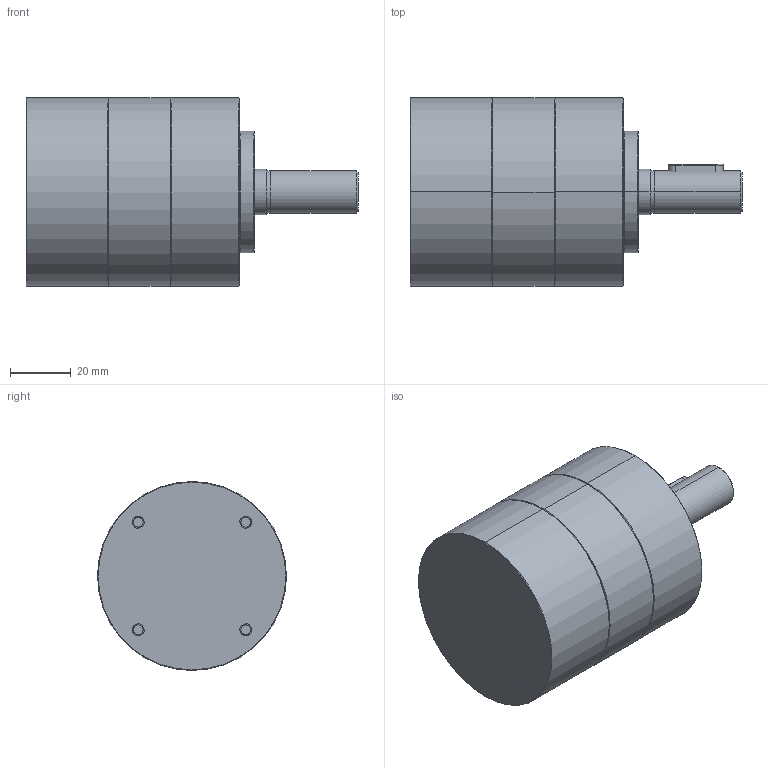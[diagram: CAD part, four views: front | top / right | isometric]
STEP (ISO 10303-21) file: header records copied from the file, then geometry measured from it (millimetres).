
FILE_DESCRIPTION (( 'STEP AP203' ), '1' );
FILE_NAME ('PI62-1.STEP', '2013-11-27T15:26:46', ( '' ), ( '' ), 'SwSTEP 2.0', 'SolidWorks 2012', '' );
FILE_SCHEMA (( 'CONFIG_CONTROL_DESIGN' ));
Length unit declared in the file: millimetre
Products named in the file (2): PI62-1; Group1^Baugruppe57_01
Assembly tree (1 placements, depth 2):
  PI62-1
    Group1^Baugruppe57_01
Bounding box: 109 x 62 x 62 mm (x, y, z)
Volume: 233789.5 mm3; surface area: 36639.1 mm2
Topology: 9 solids, 9 shells, 910 faces, 2296 edges, 1419 vertices
Faces by surface type: cone 524, cylinder 318, plane 44, torus 24
Entity records: 27816 total; most frequent: DIRECTION 5540, CARTESIAN_POINT 4619, ORIENTED_EDGE 4572, AXIS2_PLACEMENT_3D 2340, EDGE_CURVE 2286, CIRCLE 1426, VERTEX_POINT 1419, EDGE_LOOP 935
